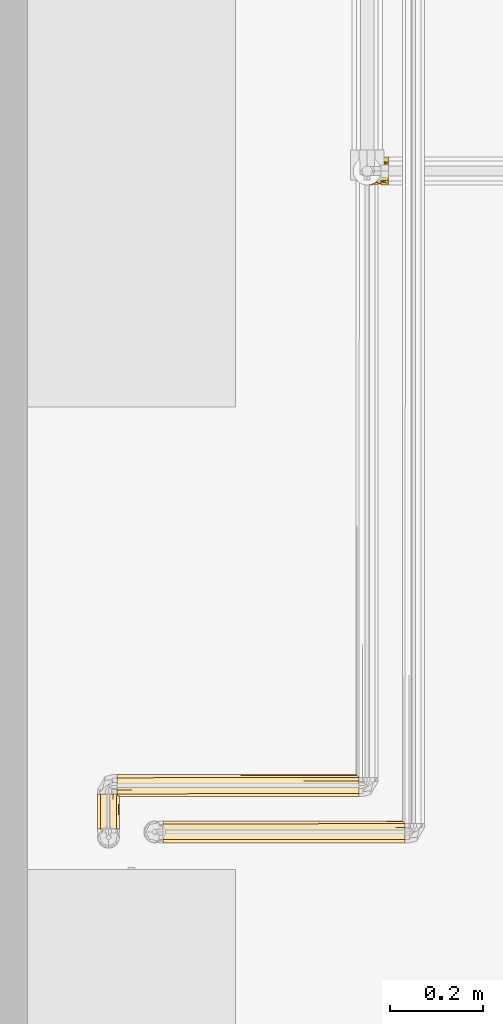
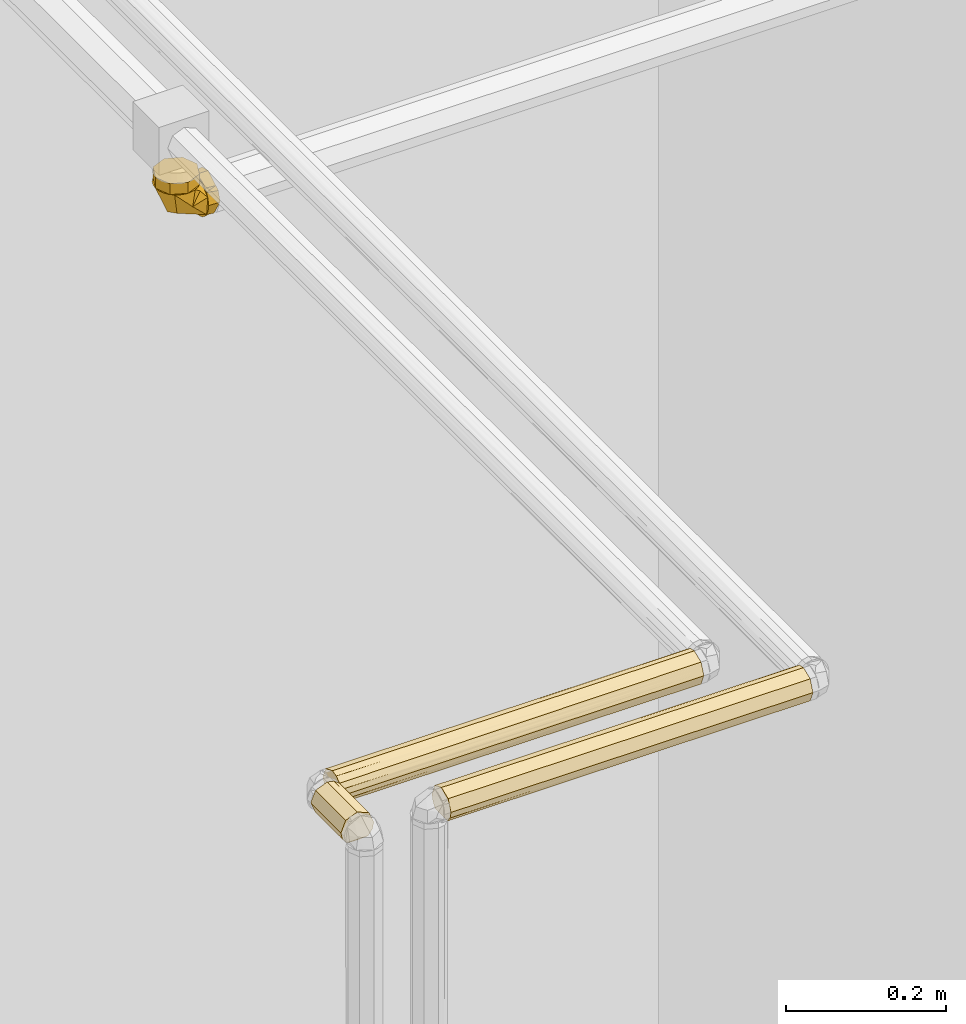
# One storey, part 141 of 652: 4 coverings.
"""IFC2X3 building model written with IfcOpenShell, lengths in millimetres."""

from ifc_helpers import new_model, entity, si_unit, converted_unit, direction, frame, origin, place, context, subcontext, project, spatial, face_set, faceted_brep, surface_model, material, type_object, element, save


model = new_model("IFC2X3")

# Units and contexts
model_context = context("Model", 3, precision=0.01, world=frame((0.0, 0.0, 308426.39999999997)), true_north=direction((6.123233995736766e-17, 1.0)))
plan_context = context("Plan", 3, precision=0.01, world=frame((0.0, 0.0, 308426.39999999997)), true_north=direction((6.123233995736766e-17, 1.0)))
body_context = subcontext(model_context, "Body", "Model", "MODEL_VIEW")
ifc_project = project(units=[si_unit("LENGTHUNIT", "METRE", prefix="MILLI"), si_unit("AREAUNIT", "SQUARE_METRE"), si_unit("VOLUMEUNIT", "CUBIC_METRE"), converted_unit("PLANEANGLEUNIT", "DEGREE", entity("IfcPlaneAngleMeasure", 0.017453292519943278), si_unit("PLANEANGLEUNIT", "RADIAN"), dimensions=[0, 0, 0, 0, 0, 0, 0])], contexts=[model_context, plan_context])

# Site, building, storey
site_placement = place(None, origin())
site = spatial("IfcSite", under=ifc_project, at=site_placement, Name="Default", CompositionType="ELEMENT")
building_placement = place(site_placement, origin())
building = spatial("IfcBuilding", under=site, at=building_placement, CompositionType="ELEMENT")
storey_placement = place(building_placement, frame((0.0, 0.0, 1730.6999999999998)))
storey = spatial("IfcBuildingStorey", under=building, at=storey_placement, Name="EG_Produktion_FFB", CompositionType="ELEMENT", Elevation=1730.6999999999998)

# Coverings
ifc_material = material(Name="Dämmung - Armaflex-Schlauch")
covering_type = type_object("IfcCoveringType", Name="Rohrdämmung außen:Armaflex-Schlauch", PredefinedType="INSULATION")
covering_1_placement = place(storey_placement, frame((15152.485930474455, 37878.2922278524, 4146.017250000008)))
element("IfcCovering", 1, at=covering_1_placement, inside=storey, type_object=covering_type, material=ifc_material, Name="Rohrdämmung außen:Armaflex-Schlauch", ObjectType="Rohrdämmung außen:Armaflex-Schlauch", PredefinedType="INSULATION", context=body_context, shape_type="SurfaceModel", body=[
    surface_model("IfcFaceBasedSurfaceModel", [(61.21227223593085, 37.7283316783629, -16.51275000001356), (58.87053868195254, 18.70981950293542, -16.51275000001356), (54.90616939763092, 12.508891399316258, -16.51275000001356), (49.55598588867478, 7.454856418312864, -16.512750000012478), (43.139594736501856, 3.8496299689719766, -16.512750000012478), (36.0402951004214, 1.9085792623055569, -16.512750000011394), (28.682181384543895, 1.7476578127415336, -16.512750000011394), (21.504808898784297, 3.3764786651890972, -16.512750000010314), (14.936935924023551, 6.6977401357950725, -16.512750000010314), (9.370910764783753, 11.513038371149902, -16.51275000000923), (5.139233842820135, 17.534719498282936, -16.51275000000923), (2.4946949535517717, 24.40306334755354, -16.51275000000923), (1.5952722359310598, 31.7077722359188, -16.51275000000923), (2.4946949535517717, 39.01248112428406, -16.51275000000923), (5.139233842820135, 45.88082497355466, -16.51275000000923), (9.370910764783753, 51.902506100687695, -16.51275000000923), (14.936935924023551, 56.717804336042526, -16.512750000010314), (21.504808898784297, 60.0390658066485, -16.512750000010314), (28.682181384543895, 61.66788665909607, -16.512750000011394), (36.0402951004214, 61.50696520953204, -16.512750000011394), (43.139594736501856, 59.565914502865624, -16.512750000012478), (49.55598588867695, 55.960688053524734, -16.512750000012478), (54.90616939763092, 50.906653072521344, -16.51275000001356), (58.87053868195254, 44.70572496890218, -16.51275000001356), (61.21227223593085, 25.687212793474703, -16.51275000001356), (61.21227223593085, 18.70981950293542, -18.85448355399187), (61.21227223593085, 12.508891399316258, -22.81885283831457), (61.21227223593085, 7.454856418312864, -28.169036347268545), (61.21227223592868, 3.8496299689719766, -34.58542749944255), (61.21227223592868, 1.9085792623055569, -41.68472713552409), (61.21227223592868, 1.7476578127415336, -49.04284085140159), (61.21227223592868, 3.3764786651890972, -56.22021333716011), (61.21227223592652, 6.6977401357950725, -62.78808631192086), (61.21227223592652, 11.513038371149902, -68.35411147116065), (61.21227223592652, 17.534719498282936, -72.5857883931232), (61.21227223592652, 24.40306334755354, -75.23032728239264), (61.21227223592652, 31.7077722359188, -76.12975000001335), (61.21227223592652, 39.01248112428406, -75.23032728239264), (61.21227223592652, 45.88082497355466, -72.5857883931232), (61.21227223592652, 51.902506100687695, -68.35411147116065), (61.21227223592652, 56.717804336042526, -62.78808631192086), (61.21227223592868, 60.0390658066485, -56.22021333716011), (61.21227223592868, 61.66788665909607, -49.04284085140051), (61.21227223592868, 61.50696520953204, -41.68472713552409), (61.21227223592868, 59.565914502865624, -34.58542749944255), (61.21227223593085, 55.960688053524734, -28.169036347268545), (61.21227223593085, 50.906653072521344, -22.81885283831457), (61.21227223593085, 44.70572496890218, -18.85448355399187), (52.31854340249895, 55.88068474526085, -23.877989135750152), (61.21218659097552, 48.44625481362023, -25.383129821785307), (52.3417977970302, 48.44625481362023, -16.512741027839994), (21.254160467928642, 51.8018639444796, -49.68339074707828), (8.143332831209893, 43.98373650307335, -16.512741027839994), (38.21010224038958, 61.66870354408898, -39.51482537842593), (61.21218659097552, 58.141011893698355, -48.68693994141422), (19.056620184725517, 31.707741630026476, -58.668307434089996), (61.21218659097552, 44.211629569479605, -69.45892785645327), (29.03856903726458, 58.141011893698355, -16.512741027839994), (52.31854340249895, 7.534798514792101, -23.877989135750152), (52.3417977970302, 14.969228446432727, -16.512741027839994), (21.254160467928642, 11.61361931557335, -49.68339074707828), (8.143332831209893, 19.431746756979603, -16.512741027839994), (61.21218659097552, 14.769240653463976, -25.548817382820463), (38.21010224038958, 1.746779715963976, -39.51482537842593), (29.03856903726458, 5.274471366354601, -16.512741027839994), (61.21218659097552, 19.20385369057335, -69.45892785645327), (61.21218659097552, 5.274471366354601, -48.68693994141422), (1.5952722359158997, 31.7077722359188, 0.0), (4.43806438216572, 24.844664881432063, 0.0), (6.005145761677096, 21.061395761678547, 0.0), (8.210082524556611, 15.738207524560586, 0.0), (10.415019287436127, 10.415019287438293, 0.0), (15.738207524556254, 8.210082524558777, 0.0), (21.06139576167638, 6.005145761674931, 0.0), (26.384583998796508, 3.8002089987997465, 0.0), (31.707772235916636, 1.5952722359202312, 0.0), (38.570879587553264, 4.438064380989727, 0.0), (42.354148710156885, 6.005145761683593, 0.0), (47.677336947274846, 8.210082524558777, 0.0), (53.00052518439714, 10.415019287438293, 0.0), (55.20546194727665, 15.738207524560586, 0.0), (57.41039871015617, 21.061395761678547, 0.0), (59.61533547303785, 26.384583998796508, 0.0), (61.82027223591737, 31.7077722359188, 0.0), (58.97748009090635, 38.57087958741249, 0.0), (57.41039871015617, 42.35414871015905, 0.0), (55.20546194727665, 47.67733694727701, 0.0), (53.00052518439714, 53.00052518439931, 0.0), (47.67733694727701, 55.20546194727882, 0.0), (42.354148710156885, 57.41039871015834, 0.0), (37.030960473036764, 59.61533547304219, 0.0), (31.707772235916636, 61.8202722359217, 0.0), (24.844664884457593, 58.977480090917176, 0.0), (21.06139576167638, 57.41039871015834, 0.0), (15.738207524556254, 55.20546194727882, 0.0), (10.415019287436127, 53.00052518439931, 0.0), (8.210082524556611, 47.67733694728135, 0.0), (6.005145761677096, 42.35414871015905, 0.0), (3.8002089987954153, 37.030960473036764, 0.0), (31.707772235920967, 1.5952722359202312, -16.512750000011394), (26.38458399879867, 3.8002089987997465, -16.51275000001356), (21.061395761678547, 6.005145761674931, -16.51275000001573), (15.738207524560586, 8.210082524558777, -16.51275000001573), (10.415019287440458, 10.415019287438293, -16.512750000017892), (7.2808565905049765, 17.981557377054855, -16.512750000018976), (4.438064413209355, 24.844664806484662, -16.51275000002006), (1.5952722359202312, 31.7077722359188, -16.51275000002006), (3.8002089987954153, 37.030960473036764, -16.51275000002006), (6.005145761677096, 42.35414871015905, -16.512750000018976), (8.210082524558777, 47.67733694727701, -16.512750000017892), (10.415019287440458, 53.00052518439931, -16.512750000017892), (17.98155753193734, 56.13468794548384, -16.51275000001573), (24.844664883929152, 58.9774800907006, -16.51275000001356), (31.707772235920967, 61.8202722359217, -16.512750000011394), (37.03096047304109, 59.61533547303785, -16.51275000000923), (42.35414871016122, 57.410398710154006, -16.512750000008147), (47.67733694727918, 55.20546194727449, -16.512750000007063), (53.000525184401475, 53.00052518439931, -16.5127500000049), (56.134687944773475, 45.433986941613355, -16.512750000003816), (58.97748009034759, 38.57087958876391, -16.512750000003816), (61.8202722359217, 31.7077722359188, -16.512750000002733), (59.61533547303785, 26.384583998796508, -16.512750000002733), (57.41039871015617, 21.061395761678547, -16.5127500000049), (55.20546194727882, 15.738207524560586, -16.512750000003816), (53.000525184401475, 10.415019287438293, -16.5127500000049), (45.433986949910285, 7.280856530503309, -16.512750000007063), (38.570879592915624, 4.438064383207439, -16.51275000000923), (77.72502223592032, 31.7077722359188, -76.12975000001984), (77.72502223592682, 38.2273197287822, -72.36568750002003), (77.72502223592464, 44.74686722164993, -68.6016250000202), (77.72502223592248, 51.266414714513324, -64.83756250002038), (77.72502223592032, 57.78596220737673, -61.07350000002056), (77.72502223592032, 59.80311722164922, -53.54537500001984), (77.72502223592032, 61.82027223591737, -46.0172500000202), (77.72502223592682, 58.05620973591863, -39.497702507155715), (77.72502223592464, 54.29214723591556, -32.978155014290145), (77.72502223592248, 50.528084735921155, -26.458607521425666), (77.72502223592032, 46.764022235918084, -19.939060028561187), (77.72502223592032, 39.23589723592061, -17.921905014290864), (77.72502223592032, 31.7077722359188, -15.904750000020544), (77.72502223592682, 25.18822474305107, -19.668812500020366), (77.72502223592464, 18.66867725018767, -23.432875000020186), (77.72502223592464, 12.149129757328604, -27.196937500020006), (77.72502223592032, 5.629582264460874, -30.961000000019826), (77.72502223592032, 3.6124272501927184, -38.48912500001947), (77.72502223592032, 1.5952722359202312, -46.0172500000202), (77.72502223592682, 5.35933473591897, -52.53679749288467), (77.72502223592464, 9.12339723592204, -59.05634498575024), (77.72502223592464, 12.887459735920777, -65.57589247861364), (77.72502223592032, 16.651522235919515, -72.09543997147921), (77.72502223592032, 24.179647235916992, -74.11259498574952), (61.21227223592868, 31.7077722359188, -76.12975000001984), (61.21227223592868, 26.384583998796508, -73.92481323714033), (61.21227223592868, 21.061395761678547, -71.71987647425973), (61.21227223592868, 15.738207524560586, -69.51493971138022), (61.21227223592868, 10.415019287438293, -67.31000294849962), (61.21227223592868, 8.210082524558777, -61.986814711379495), (61.21227223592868, 6.005145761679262, -56.66362647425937), (61.21227223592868, 3.8002089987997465, -51.34043823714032), (61.21227223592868, 1.5952722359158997, -46.0172500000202), (61.21227223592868, 3.8002089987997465, -40.69406176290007), (61.21227223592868, 6.005145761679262, -35.37087352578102), (61.21227223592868, 8.210082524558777, -30.047685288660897), (61.21227223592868, 10.415019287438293, -24.724497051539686), (61.21227223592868, 15.738207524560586, -22.519560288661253), (61.21227223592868, 21.061395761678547, -20.314623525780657), (61.21227223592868, 26.384583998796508, -18.109686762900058), (61.21227223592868, 31.7077722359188, -15.904750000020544), (61.21227223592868, 37.03096047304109, -18.109686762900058), (61.21227223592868, 42.35414871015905, -20.314623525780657), (61.21227223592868, 47.67733694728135, -22.519560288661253), (61.21227223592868, 53.000525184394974, -24.724497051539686), (61.21227223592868, 55.20546194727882, -30.047685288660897), (61.21227223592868, 57.41039871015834, -35.37087352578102), (61.21227223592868, 59.61533547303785, -40.69406176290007), (61.21227223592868, 61.82027223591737, -46.0172500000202), (61.21227223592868, 59.61533547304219, -51.34043823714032), (61.21227223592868, 57.41039871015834, -56.66362647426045), (61.21227223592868, 55.20546194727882, -61.986814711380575), (61.21227223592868, 53.000525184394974, -67.31000294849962), (61.21227223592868, 47.67733694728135, -69.51493971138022), (61.21227223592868, 42.35414871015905, -71.71987647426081), (61.21227223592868, 37.03096047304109, -73.92481323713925)], [face_set([[[0, 1, 2, 3, 4, 5, 6, 7, 8, 9, 10, 11, 12, 13, 14, 15, 16, 17, 18, 19, 20, 21, 22, 23]], [[24, 25, 26, 27, 28, 29, 30, 31, 32, 33, 34, 35, 36, 37, 38, 39, 40, 41, 42, 43, 44, 45, 46, 47]], [[48, 0, 49]], [[50, 48, 20]], [[51, 52, 16]], [[51, 16, 53]], [[53, 44, 54]], [[48, 49, 44]], [[40, 51, 53]], [[55, 51, 56]], [[57, 20, 53]], [[56, 36, 55]], [[55, 52, 51]], [[48, 50, 0]], [[55, 12, 52]], [[20, 48, 53]], [[53, 16, 57]], [[44, 53, 48]], [[54, 40, 53]], [[51, 40, 56]], [[58, 59, 4]], [[60, 61, 55]], [[24, 58, 62]], [[63, 8, 60]], [[63, 4, 64]], [[55, 65, 60]], [[24, 59, 58]], [[32, 63, 60]], [[28, 58, 63]], [[58, 28, 62]], [[61, 60, 8]], [[61, 12, 55]], [[63, 32, 66]], [[4, 63, 58]], [[64, 8, 63]], [[66, 28, 63]], [[65, 55, 36]], [[65, 32, 60]]]), face_set([[[67, 68, 69, 70, 71, 72, 73, 74, 75, 76, 77, 78, 79, 80, 81, 82, 83, 84, 85, 86, 87, 88, 89, 90, 91, 92, 93, 94, 95, 96, 97, 98]], [[99, 100, 101, 102, 103, 104, 105, 106, 107, 108, 109, 110, 111, 112, 113, 114, 115, 116, 117, 118, 119, 120, 121, 122, 123, 124, 125, 126]], [[105, 104, 103, 71, 70, 69, 68, 67, 106]], [[71, 103, 102, 101, 100, 99, 75, 74, 73, 72]], [[126, 125, 124, 79, 78, 77, 76, 75, 99]], [[79, 124, 123, 122, 121, 120, 83, 82, 81, 80]], [[119, 118, 117, 87, 86, 85, 84, 83, 120]], [[87, 117, 116, 115, 114, 113, 91, 90, 89, 88]], [[112, 111, 110, 95, 94, 93, 92, 91, 113]], [[95, 110, 109, 108, 107, 106, 67, 98, 97, 96]]]), face_set([[[127, 128, 129, 130, 131, 132, 133, 134, 135, 136, 137, 138, 139, 140, 141, 142, 143, 144, 145, 146, 147, 148, 149, 150]], [[151, 152, 153, 154, 155, 156, 157, 158, 159, 160, 161, 162, 163, 164, 165, 166, 167, 168, 169, 170, 171, 172, 173, 174, 175, 176, 177, 178, 179, 180, 181, 182]], [[170, 136, 171]], [[133, 174, 134]], [[174, 173, 134]], [[138, 169, 168]], [[168, 167, 139]], [[136, 170, 137]], [[135, 173, 172]], [[133, 175, 174]], [[173, 135, 134]], [[139, 138, 168]], [[172, 171, 136]], [[170, 169, 137]], [[138, 137, 169]], [[135, 172, 136]], [[178, 130, 179]], [[127, 182, 128]], [[182, 181, 128]], [[132, 177, 176]], [[176, 175, 133]], [[130, 178, 131]], [[129, 181, 180]], [[127, 151, 182]], [[181, 129, 128]], [[133, 132, 176]], [[180, 179, 130]], [[178, 177, 131]], [[132, 131, 177]], [[129, 180, 130]], [[154, 148, 155]], [[145, 158, 146]], [[158, 157, 146]], [[150, 153, 152]], [[152, 151, 127]], [[148, 154, 149]], [[147, 157, 156]], [[145, 159, 158]], [[157, 147, 146]], [[127, 150, 152]], [[156, 155, 148]], [[154, 153, 149]], [[150, 149, 153]], [[147, 156, 148]], [[162, 142, 163]], [[139, 166, 140]], [[166, 165, 140]], [[144, 161, 160]], [[160, 159, 145]], [[142, 162, 143]], [[141, 165, 164]], [[139, 167, 166]], [[165, 141, 140]], [[145, 144, 160]], [[164, 163, 142]], [[162, 161, 143]], [[144, 143, 161]], [[141, 164, 142]]])]),
])
covering_2_placement = place(storey_placement, frame((14599.642227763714, 36486.354977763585, 4225.3577722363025)))
element("IfcCovering", 2, at=covering_2_placement, inside=storey, type_object=covering_type, material=ifc_material, Name="Rohrdämmung außen:Armaflex-Schlauch", ObjectType="Rohrdämmung außen:Armaflex-Schlauch", PredefinedType="INSULATION", context=body_context, shape_type="Brep", body=[
    faceted_brep([(43.3080222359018, 77.28460500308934, -9.787128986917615), (43.308022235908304, 77.28460500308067, -40.928415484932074), (39.26743877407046, 77.28460500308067, -43.951164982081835), (35.22685531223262, 77.28460500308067, -46.97391447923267), (30.29231377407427, 77.28460500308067, -48.04709335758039), (25.357772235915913, 77.28460500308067, -49.120272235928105), (21.157116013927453, 77.28460500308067, -47.380303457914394), (16.956459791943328, 77.28460500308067, -45.64033467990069), (12.755803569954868, 77.28460500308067, -43.90036590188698), (8.55514734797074, 77.28460500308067, -42.16039712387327), (6.815178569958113, 77.28460500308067, -37.959740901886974), (5.07520979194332, 77.28460500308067, -33.75908467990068), (3.3343051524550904, 77.28460500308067, -29.556169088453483), (1.5952722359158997, 77.284605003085, -25.357772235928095), (3.3343051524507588, 77.28460500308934, -21.159375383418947), (5.07520979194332, 77.28460500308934, -16.95645979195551), (6.815178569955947, 77.28460500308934, -12.755803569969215), (8.55514734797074, 77.28460500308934, -8.555147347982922), (12.755803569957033, 77.28460500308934, -6.815178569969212), (16.956459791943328, 77.28460500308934, -5.075209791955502), (21.15711601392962, 77.28460500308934, -3.335241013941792), (25.357772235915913, 77.28460500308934, -1.595272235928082), (30.292313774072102, 77.28460500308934, -2.668451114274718), (35.226855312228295, 77.28460500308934, -3.7416299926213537), (39.26743877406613, 77.28460500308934, -6.76437948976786), (8.555147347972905, 1.5952722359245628, -8.55514734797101), (6.815178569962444, 1.5952722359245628, -12.755803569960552), (5.075209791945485, 1.5952722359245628, -16.95645979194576), (3.3352410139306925, 1.5952722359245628, -21.157116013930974), (1.5952722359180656, 1.5952722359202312, -25.357772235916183), (2.6684511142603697, 1.5952722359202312, -30.292313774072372), (3.7416299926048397, 1.5952722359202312, -35.2268553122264), (6.764379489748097, 1.5952722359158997, -39.267438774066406), (9.78712898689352, 1.5952722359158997, -43.30802223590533), (40.928415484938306, 1.5952722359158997, -43.30802223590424), (43.951164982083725, 1.5952722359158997, -39.267438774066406), (46.97391447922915, 1.5952722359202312, -35.22685531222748), (48.047093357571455, 1.5952722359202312, -30.292313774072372), (49.12027223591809, 1.5952722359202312, -25.357772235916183), (47.38030345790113, 1.5952722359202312, -21.157116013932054), (45.64033467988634, 1.5952722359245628, -16.956459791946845), (43.900365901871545, 1.5952722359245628, -12.755803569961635), (42.16039712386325, 1.5952722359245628, -8.55514734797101), (37.95974090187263, 1.5952722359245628, -6.815178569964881), (33.759084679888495, 1.5952722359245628, -5.075209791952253), (29.558428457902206, 1.5952722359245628, -3.3352410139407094), (25.357772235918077, 1.5952722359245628, -1.5952722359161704), (21.159375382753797, 1.5952722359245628, -3.334305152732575), (16.96097852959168, 1.5952722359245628, -5.073338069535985), (12.758062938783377, 1.5952722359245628, -6.814242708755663), (48.370055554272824, 72.22257168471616, -29.512793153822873), (49.12027223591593, 71.47235500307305, -25.357772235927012), (45.463930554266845, 75.12869668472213, -37.29811477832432), (47.61983887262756, 72.97278836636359, -33.66781407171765), (37.29811477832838, 3.75118055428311, -45.46393055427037), (33.66781407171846, 5.907088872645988, -47.61983887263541), (29.51279315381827, 6.657305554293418, -48.37005555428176), (25.357772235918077, 7.407522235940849, -49.120272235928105), (21.202751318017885, 6.6573055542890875, -48.37005555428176), (17.04773040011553, 5.907088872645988, -47.61983887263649), (13.417429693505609, 3.75118055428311, -45.46393055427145), (45.46393055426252, 75.12869668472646, -13.417429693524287), (47.619838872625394, 72.97278836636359, -17.047730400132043), (48.37005555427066, 72.22257168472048, -21.202751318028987)], [[[0, 1, 2, 3, 4, 5, 6, 7, 8, 9, 10, 11, 12, 13, 14, 15, 16, 17, 18, 19, 20, 21, 22, 23, 24]], [[25, 26, 27, 28, 29, 30, 31, 32, 33, 34, 35, 36, 37, 38, 39, 40, 41, 42, 43, 44, 45, 46, 47, 48, 49]], [[50, 51, 38]], [[52, 53, 36]], [[37, 53, 50]], [[52, 35, 1]], [[2, 54, 3]], [[3, 55, 4]], [[54, 2, 34]], [[54, 55, 3]], [[56, 5, 4]], [[36, 53, 37]], [[56, 57, 5]], [[50, 38, 37]], [[2, 1, 34]], [[35, 34, 1]], [[4, 55, 56]], [[35, 52, 36]], [[57, 58, 5]], [[30, 29, 12]], [[6, 58, 59]], [[31, 10, 32]], [[60, 7, 59]], [[9, 33, 32]], [[31, 30, 11]], [[11, 30, 12]], [[5, 58, 6]], [[32, 10, 9]], [[29, 13, 12]], [[31, 11, 10]], [[7, 60, 8]], [[33, 8, 60]], [[6, 59, 7]], [[8, 33, 9]], [[14, 13, 29, 28, 27, 26, 25, 17, 16, 15]], [[49, 48, 47, 46, 21, 20, 19, 18, 17, 25]], [[24, 43, 42]], [[21, 45, 22]], [[61, 0, 41]], [[44, 23, 22]], [[44, 43, 23]], [[46, 45, 21]], [[0, 42, 41]], [[62, 40, 39]], [[22, 45, 44]], [[61, 40, 62]], [[23, 43, 24]], [[63, 62, 39]], [[40, 61, 41]], [[42, 0, 24]], [[38, 63, 39]], [[51, 63, 38]], [[0, 61, 62, 63, 51, 50, 53, 52, 1]], [[34, 33, 60, 59, 58, 57, 56, 55, 54]]]),
])
covering_3_placement = place(storey_placement, frame((14741.354977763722, 36456.23206053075, 4174.642227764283)))
element("IfcCovering", 3, at=covering_3_placement, inside=storey, type_object=covering_type, material=ifc_material, Name="Rohrdämmung außen:Armaflex-Schlauch", ObjectType="Rohrdämmung außen:Armaflex-Schlauch", PredefinedType="INSULATION", context=body_context, shape_type="Brep", body=[
    faceted_brep([(524.8884749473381, 43.30802223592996, 40.92841548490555), (524.8884749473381, 39.26743877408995, 43.95116498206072), (524.8884749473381, 35.22685531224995, 46.973914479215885), (524.8884749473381, 30.2923137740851, 48.04709335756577), (524.8884749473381, 25.357772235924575, 49.12027223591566), (524.8884749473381, 20.499710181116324, 47.10799704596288), (524.8884749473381, 16.95645979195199, 45.640334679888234), (524.8884749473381, 12.755803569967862, 43.90036590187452), (524.8884749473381, 8.555147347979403, 42.16039712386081), (524.8884749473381, 6.81517856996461, 37.95974090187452), (524.8884749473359, 5.075209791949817, 33.759084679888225), (524.8884749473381, 3.335241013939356, 29.558428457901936), (524.8884749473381, 1.5952722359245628, 25.35777223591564), (524.8884749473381, 3.335241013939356, 21.157116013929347), (524.8884749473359, 5.075209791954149, 16.956459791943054), (524.8884749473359, 6.81517856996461, 12.755803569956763), (524.8884749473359, 8.555147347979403, 8.55514734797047), (524.8884749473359, 12.75580356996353, 6.8151785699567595), (524.8884749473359, 16.95645979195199, 5.075209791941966), (524.8884749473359, 21.157116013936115, 3.335241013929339), (524.8884749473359, 25.357772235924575, 1.595272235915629), (524.8884749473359, 30.2923137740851, 2.668451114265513), (524.8884749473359, 35.22685531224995, 3.7416299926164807), (524.8884749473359, 39.26743877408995, 6.764379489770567), (524.8884749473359, 43.30802223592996, 9.787128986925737), (1.5952722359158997, 40.92841548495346, 7.407522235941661), (1.5952722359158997, 9.787128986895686, 7.407522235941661), (1.5952722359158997, 6.764379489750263, 11.448105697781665), (1.5952722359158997, 3.7416299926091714, 15.488689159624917), (1.5952722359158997, 2.6684511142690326, 20.42323069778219), (1.5952722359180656, 1.5952722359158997, 25.357772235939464), (1.5952722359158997, 3.6075474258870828, 30.215834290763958), (1.5952722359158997, 5.6198226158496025, 35.073896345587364), (1.5952722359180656, 8.55514734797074, 42.160397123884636), (1.5952722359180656, 12.755803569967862, 43.900365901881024), (1.5952722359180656, 16.95645979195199, 45.64033467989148), (1.5952722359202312, 21.157116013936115, 47.38030345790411), (1.5952722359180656, 25.357772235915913, 49.120272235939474), (1.5952722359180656, 30.215834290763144, 47.10799704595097), (1.5952722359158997, 33.759084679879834, 45.640334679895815), (1.5952722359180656, 37.959740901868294, 43.90036590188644), (1.5952722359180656, 42.16039712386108, 42.160397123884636), (1.5952722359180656, 43.90036590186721, 37.95974090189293), (1.5952722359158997, 45.64033467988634, 33.7590846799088), (1.5952722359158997, 47.38030345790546, 29.558428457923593), (1.5952722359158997, 49.12027223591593, 25.357772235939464), (1.5952722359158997, 48.04709335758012, 20.42323069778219), (1.5952722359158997, 46.97391447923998, 15.488689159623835), (1.5952722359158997, 43.951164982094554, 11.44810569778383), (5.9070888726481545, 17.04773040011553, 3.0957055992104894), (3.7511805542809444, 13.417429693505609, 5.251613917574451), (6.657305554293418, 21.202751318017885, 2.3454889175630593), (7.407522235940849, 25.357772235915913, 1.595272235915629), (3.75118055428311, 37.29811477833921, 5.251613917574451), (5.90708887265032, 33.667814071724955, 3.0957055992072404), (6.453845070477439, 30.63964435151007, 2.5489494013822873), (519.0762249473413, 49.12027223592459, 25.35777223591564), (519.8264416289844, 48.370055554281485, 21.202751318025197), (520.5766583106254, 47.61983887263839, 17.047730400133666), (522.7325666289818, 45.463930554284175, 13.417429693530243), (519.8264416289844, 48.370055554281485, 29.512793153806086), (520.5766583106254, 47.61983887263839, 33.66781407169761), (522.7325666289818, 45.463930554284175, 37.29811477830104)], [[[0, 1, 2, 3, 4, 5, 6, 7, 8, 9, 10, 11, 12, 13, 14, 15, 16, 17, 18, 19, 20, 21, 22, 23, 24]], [[25, 26, 27, 28, 29, 30, 31, 32, 33, 34, 35, 36, 37, 38, 39, 40, 41, 42, 43, 44, 45, 46, 47, 48]], [[30, 13, 12]], [[18, 49, 19]], [[13, 30, 29]], [[29, 14, 13]], [[26, 16, 27]], [[17, 26, 50]], [[50, 49, 18]], [[51, 52, 20]], [[28, 27, 15]], [[27, 16, 15]], [[28, 15, 14]], [[19, 49, 51]], [[16, 26, 17]], [[29, 28, 14]], [[50, 18, 17]], [[51, 20, 19]], [[53, 25, 23]], [[54, 21, 52, 55]], [[21, 54, 22]], [[52, 21, 20]], [[53, 23, 22]], [[45, 56, 57]], [[46, 58, 47]], [[22, 54, 53]], [[59, 24, 48]], [[57, 58, 46]], [[47, 58, 59]], [[25, 24, 23]], [[47, 59, 48]], [[24, 25, 48]], [[45, 57, 46]], [[45, 60, 56]], [[3, 39, 38, 37]], [[60, 45, 44]], [[61, 43, 62]], [[1, 41, 40]], [[41, 1, 0]], [[39, 3, 2]], [[0, 42, 41]], [[43, 61, 44]], [[0, 62, 42]], [[40, 2, 1]], [[40, 39, 2]], [[44, 61, 60]], [[37, 4, 3]], [[62, 43, 42]], [[30, 12, 11, 10, 9, 8, 33, 32, 31]], [[7, 6, 5, 4, 37, 36, 35, 34, 33, 8]], [[60, 61, 62, 0, 24, 59, 58, 57, 56]], [[25, 53, 54, 55, 52, 51, 49, 50, 26]]]),
])
covering_4_placement = place(storey_placement, frame((14641.354977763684, 36556.23206053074, 4174.642227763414)))
element("IfcCovering", 4, at=covering_4_placement, inside=storey, type_object=covering_type, material=ifc_material, Name="Rohrdämmung außen:Armaflex-Schlauch", ObjectType="Rohrdämmung außen:Armaflex-Schlauch", PredefinedType="INSULATION", context=body_context, shape_type="Brep", body=[
    faceted_brep([(1.5952722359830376, 7.407522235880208, 40.928415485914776), (1.595272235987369, 11.448105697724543, 43.95116498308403), (1.5952722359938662, 15.488689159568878, 46.97391448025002), (1.5952722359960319, 20.423230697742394, 48.0470933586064), (1.5952722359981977, 25.357772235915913, 49.12027223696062), (1.5952722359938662, 29.55842845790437, 47.38030345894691), (1.5952722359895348, 33.759084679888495, 45.6403346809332), (1.595272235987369, 37.959740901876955, 43.90036590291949), (1.5952722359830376, 42.16039712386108, 42.16039712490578), (1.5952722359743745, 43.90036590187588, 37.959740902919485), (1.5952722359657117, 45.64033467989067, 33.75908468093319), (1.5952722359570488, 47.38030345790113, 29.558428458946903), (1.5952722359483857, 49.12027223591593, 25.357772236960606), (1.5952722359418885, 47.38030345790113, 21.157116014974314), (1.5952722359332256, 45.64033467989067, 16.95645979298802), (1.595272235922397, 43.90036590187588, 12.75580357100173), (1.5952722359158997, 42.16039712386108, 8.555147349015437), (1.5952722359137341, 37.959740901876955, 6.815178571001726), (1.5952722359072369, 33.75908467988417, 5.075209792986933), (1.5952722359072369, 30.215834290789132, 3.607547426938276), (1.5952722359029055, 25.357772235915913, 1.5952722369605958), (1.595272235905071, 20.423230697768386, 2.668451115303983), (1.5952722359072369, 15.488689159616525, 3.741629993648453), (1.5952722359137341, 11.448105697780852, 6.7643794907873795), (1.5952722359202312, 7.40752223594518, 9.78712898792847), (524.8884749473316, 35.226855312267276, 3.741629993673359), (524.8884749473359, 39.26743877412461, 6.7643794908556), (524.8884749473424, 43.3080222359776, 9.787128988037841), (524.8884749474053, 43.308022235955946, 40.92841548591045), (524.8884749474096, 39.2674387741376, 43.9511649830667), (524.8884749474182, 35.22685531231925, 46.97391448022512), (524.8884749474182, 30.292313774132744, 48.04709335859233), (524.8884749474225, 25.357772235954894, 49.12027223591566), (524.8884749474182, 20.499710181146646, 47.107997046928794), (524.8884749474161, 16.95645979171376, 45.640334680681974), (524.8884749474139, 12.755803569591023, 43.90036590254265), (524.8884749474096, 8.555147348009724, 42.16039712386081), (524.8884749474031, 6.81517856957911, 37.95974090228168), (524.8884749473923, 5.075209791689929, 33.75908468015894), (524.8884749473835, 3.33524101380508, 29.558428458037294), (524.8884749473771, 1.595272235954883, 25.35777223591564), (524.8884749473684, 3.335241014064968, 21.15711601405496), (524.8884749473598, 5.075209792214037, 16.95645979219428), (524.8884749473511, 6.815178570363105, 12.7558035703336), (524.8884749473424, 8.555147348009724, 8.55514734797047), (524.8884749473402, 12.75580357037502, 6.8151785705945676), (524.8884749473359, 16.956459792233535, 5.075209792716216), (524.8884749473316, 21.15711601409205, 3.3352410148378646), (524.8884749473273, 25.357772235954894, 1.595272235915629), (524.8884749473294, 30.292313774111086, 2.6684511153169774), (519.0762249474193, 49.12027223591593, 25.357772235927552), (519.8264416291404, 48.37005555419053, 21.202751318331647), (520.5766583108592, 47.61983887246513, 17.04773040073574), (522.7325666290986, 45.4639305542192, 13.417429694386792), (6.65730555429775, 2.34548891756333, 21.202751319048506), (5.90708887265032, 3.09570559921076, 17.047730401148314), (3.7511805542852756, 5.25161391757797, 13.417429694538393), (7.407522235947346, 1.5952722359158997, 25.357772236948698), (6.657305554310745, 2.3454889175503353, 29.512793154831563), (5.907088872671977, 3.0957055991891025, 33.66781407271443), (3.7511805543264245, 5.251613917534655, 37.29811477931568), (522.7325666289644, 45.46393055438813, 37.29811477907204), (520.5766583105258, 47.61983887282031, 33.66781407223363), (519.8264416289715, 48.370055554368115, 29.512793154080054)], [[[0, 1, 2, 3, 4, 5, 6, 7, 8, 9, 10, 11, 12, 13, 14, 15, 16, 17, 18, 19, 20, 21, 22, 23, 24]], [[25, 26, 27, 28, 29, 30, 31, 32, 33, 34, 35, 36, 37, 38, 39, 40, 41, 42, 43, 44, 45, 46, 47, 48, 49]], [[50, 51, 12]], [[48, 20, 49]], [[13, 51, 52]], [[53, 14, 52]], [[25, 17, 26]], [[25, 49, 18]], [[27, 15, 53]], [[20, 19, 18, 49]], [[26, 17, 16]], [[25, 18, 17]], [[16, 27, 26]], [[12, 51, 13]], [[13, 52, 14]], [[15, 27, 16]], [[15, 14, 53]], [[23, 45, 44]], [[48, 47, 20]], [[46, 22, 21]], [[46, 45, 22]], [[40, 54, 41]], [[55, 42, 41]], [[24, 43, 56]], [[21, 47, 46]], [[42, 55, 56]], [[22, 45, 23]], [[54, 55, 41]], [[20, 47, 21]], [[44, 24, 23]], [[57, 54, 40]], [[43, 24, 44]], [[43, 42, 56]], [[36, 1, 0]], [[40, 58, 57]], [[58, 40, 39]], [[59, 38, 60]], [[3, 34, 33, 32]], [[1, 36, 35]], [[34, 3, 2]], [[0, 60, 37]], [[39, 59, 58]], [[38, 59, 39]], [[35, 2, 1]], [[0, 37, 36]], [[35, 34, 2]], [[32, 4, 3]], [[60, 38, 37]], [[32, 5, 4]], [[9, 28, 61]], [[8, 29, 28]], [[31, 6, 5]], [[7, 30, 29]], [[8, 28, 9]], [[61, 62, 10]], [[63, 50, 12]], [[31, 30, 6]], [[61, 10, 9]], [[29, 8, 7]], [[11, 62, 63]], [[7, 6, 30]], [[5, 32, 31]], [[10, 62, 11]], [[63, 12, 11]], [[0, 24, 56, 55, 54, 57, 58, 59, 60]], [[63, 62, 61, 28, 27, 53, 52, 51, 50]]]),
])

save(model, "model.ifc")
